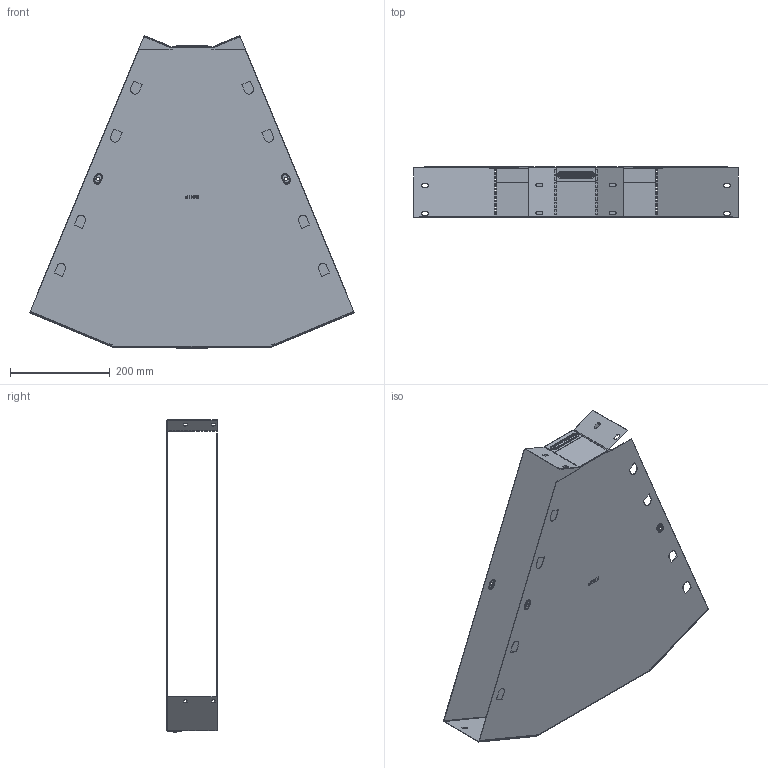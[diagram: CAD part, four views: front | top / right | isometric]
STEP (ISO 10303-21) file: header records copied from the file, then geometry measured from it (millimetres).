
FILE_DESCRIPTION (( 'STEP AP214' ), '1' );
FILE_NAME ('g45100600_捘.STEP', '2019-06-10T08:37:28', ( '砐錪賧瘔蠈錪 Windows' ), ( '' ), 'SwSTEP 2.0', 'SolidWorks 2018', '' );
FILE_SCHEMA (( 'AUTOMOTIVE_DESIGN' ));
Length unit declared in the file: millimetre
Products named in the file (1): g45100600_捘
Bounding box: 649.56 x 103.8 x 625.57 mm (x, y, z)
Volume: 492371.6 mm3; surface area: 1236783.4 mm2
Topology: 2 solids, 2 shells, 644 faces, 1816 edges, 1148 vertices
Faces by surface type: plane 370, cylinder 192, torus 64, bspline 18
Entity records: 21724 total; most frequent: CARTESIAN_POINT 4628, ORIENTED_EDGE 3632, DIRECTION 3514, EDGE_CURVE 1816, VECTOR 1300, LINE 1300, VERTEX_POINT 1148, AXIS2_PLACEMENT_3D 1107
